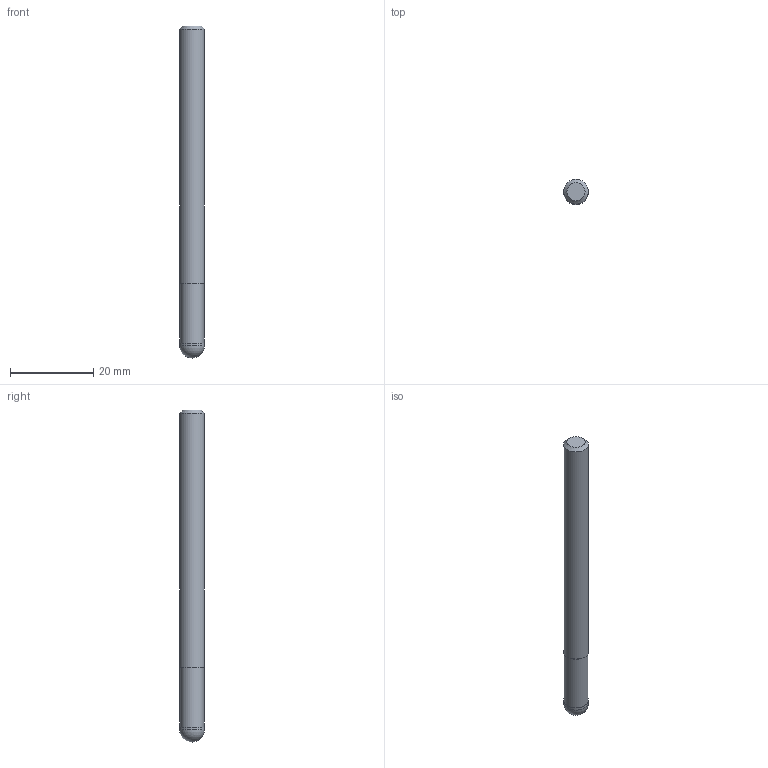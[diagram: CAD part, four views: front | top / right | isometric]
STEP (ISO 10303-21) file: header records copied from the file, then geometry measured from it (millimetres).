
FILE_DESCRIPTION((''),'2;1');
FILE_NAME('C:\Users\nsx150\AppData\Local\Temp\Mastercam 2021\LJSIDMOTM8\TEMP.step','2021-08-03T14:23:24',(''),(''),'STEP Write','Mastercam 2021 ... CNC Software, Inc.','');
FILE_SCHEMA(('AUTOMOTIVE_DESIGN'));
Length unit declared in the file: millimetre
Products named in the file (1): None
Bounding box: 6 x 6 x 80 mm (x, y, z)
Volume: 2201.5 mm3; surface area: 1574.1 mm2
Topology: 2 solids, 2 shells, 9 faces, 13 edges, 8 vertices
Faces by surface type: plane 4, cylinder 3, sphere 1, cone 1
Full cylindrical faces by diameter (mm): 5.8 x1, 6 x2
Entity records: 211 total; most frequent: DIRECTION 36, CARTESIAN_POINT 25, AXIS2_PLACEMENT_3D 18, ORIENTED_EDGE 14, EDGE_LOOP 14, STYLED_ITEM 12, ADVANCED_FACE 9, FACE_BOUND 8
